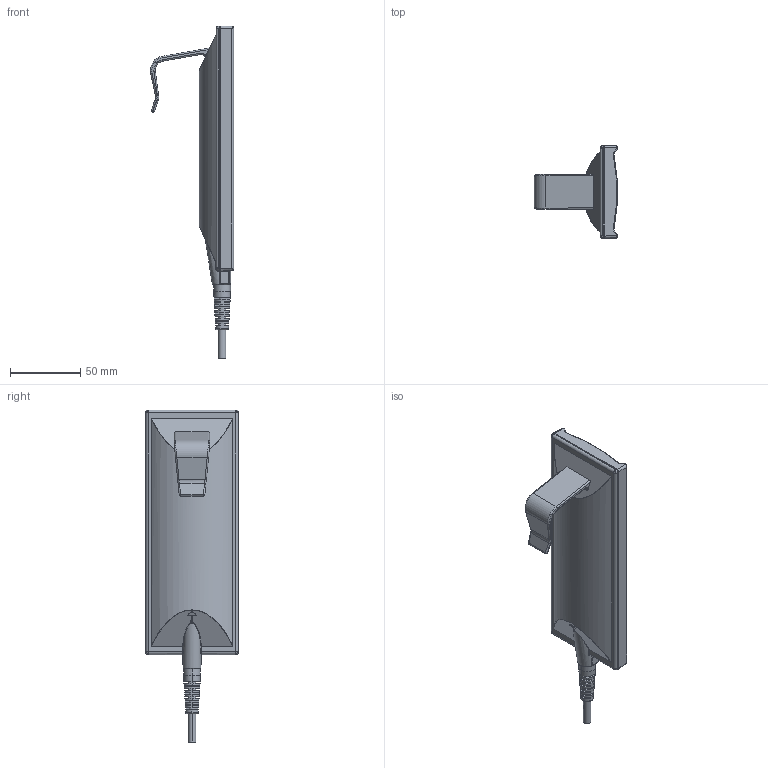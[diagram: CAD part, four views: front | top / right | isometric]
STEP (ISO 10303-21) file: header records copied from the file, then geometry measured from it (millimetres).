
FILE_DESCRIPTION((''),'2;1');
FILE_NAME('HB70','2006-02-02T',('KH'),(''),'PRO/ENGINEER BY PARAMETRIC TECHNOLOGY CORPORATION, 2005110','PRO/ENGINEER BY PARAMETRIC TECHNOLOGY CORPORATION, 2005110','');
FILE_SCHEMA(('CONFIG_CONTROL_DESIGN'));
Length unit declared in the file: millimetre
Products named in the file (1): HB70
Bounding box: 59.24 x 66 x 236.16 mm (x, y, z)
Volume: 192689.1 mm3; surface area: 35981.4 mm2
Topology: 1 solids, 1 shells, 302 faces, 719 edges, 440 vertices
Faces by surface type: plane 123, cylinder 77, bspline 49, torus 32, sphere 10, cone 8, extrusion 3
Entity records: 14744 total; most frequent: CARTESIAN_POINT 4895, ORIENTED_EDGE 1438, DIRECTION 1225, PRESENTATION_STYLE_ASSIGNMENT 811, STYLED_ITEM 720, CURVE_STYLE 719, EDGE_CURVE 719, AXIS2_PLACEMENT_3D 472
